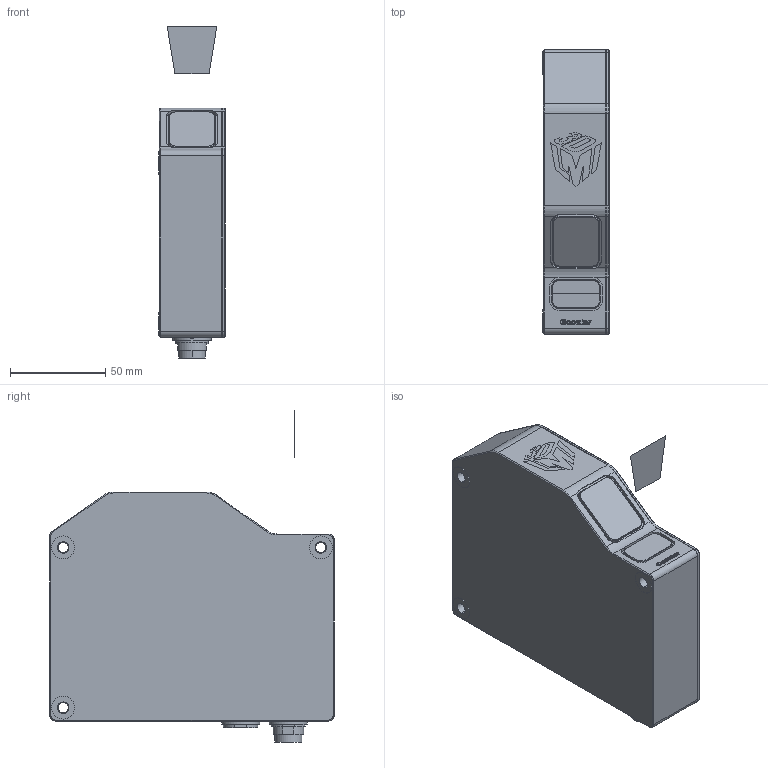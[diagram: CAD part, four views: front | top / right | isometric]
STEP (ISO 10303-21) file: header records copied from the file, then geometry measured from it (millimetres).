
FILE_DESCRIPTION (( 'STEP AP203' ), '1' );
FILE_NAME ('25027.01.01_CAD_Gocator_2120_312120X-X-R-01-S_2320_312320X-X-R-01-S.step', '2022-01-19T22:23:55', ( '' ), ( '' ), 'SwSTEP 2.0', 'SolidWorks 2020', '' );
FILE_SCHEMA (( 'CONFIG_CONTROL_DESIGN' ));
Length unit declared in the file: millimetre
Products named in the file (3): [G2120, G2320]-FOV; [G2120, G2320]-Body; 25027.01.01_CAD_Gocator_2120_312120X-X-R-01-S_2320_312320X-X-R-01-S
Assembly tree (2 placements, depth 2):
  25027.01.01_CAD_Gocator_2120_312120X-X-R-01-S_2320_312320X-X-R-01-S
    [G2120, G2320]-Body
    [G2120, G2320]-FOV
Bounding box: 35 x 149 x 174 mm (x, y, z)
Volume: 570838.6 mm3; surface area: 57282.8 mm2
Topology: 1 solids, 2 shells, 1411 faces, 3650 edges, 2340 vertices
Faces by surface type: plane 781, bspline 266, cylinder 260, cone 76, sphere 28
Entity records: 50781 total; most frequent: CARTESIAN_POINT 17701, ORIENTED_EDGE 7164, DIRECTION 6010, EDGE_CURVE 3584, LINE 2342, VECTOR 2342, VERTEX_POINT 2326, AXIS2_PLACEMENT_3D 1834
